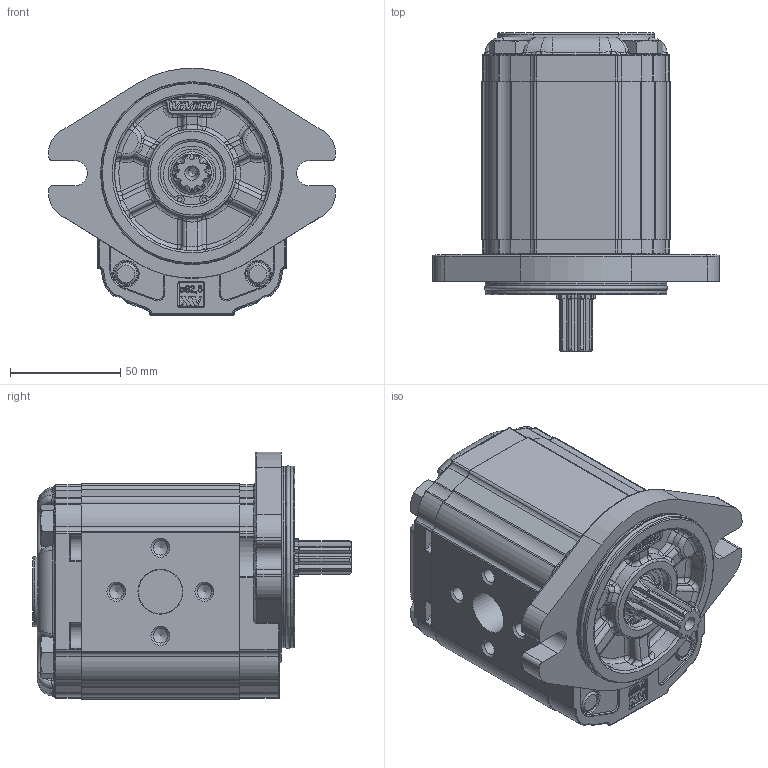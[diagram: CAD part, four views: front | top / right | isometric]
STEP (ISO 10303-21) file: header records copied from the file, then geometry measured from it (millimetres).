
FILE_DESCRIPTION(/* description */ ('Unknown'),/* implementation_level */ '2;1');
FILE_NAME(/* name */ 'X2R5331IPPE',/* time_stamp */ '2021-04-26T12:40:33+02:00',/* author */ ('Unknown'),/* organization */ ('Unknown'),/* preprocessor_version */ 'ST-DEVELOPER v16.7',/* originating_system */ 'Solid Edge',/* authorisation */ 'Unknown');
FILE_SCHEMA (('AUTOMOTIVE_DESIGN {1 0 10303 214 3 1 1}'));
Products named in the file (5): X2R5331IPPE; X2R31; 2I; X2PPH72; XR219-E
Assembly tree (4 placements, depth 2):
  X2R5331IPPE
    X2R31
    2I
    X2PPH72
    XR219-E
Bounding box: 130.38 x 144.7 x 112.3 mm (x, y, z)
Volume: 825503.2 mm3; surface area: 119792.3 mm2
Topology: 4 solids, 5 shells, 1569 faces, 3972 edges, 2480 vertices
Faces by surface type: plane 600, cylinder 443, bspline 210, torus 201, cone 89, sphere 26
Full cylindrical faces by diameter (mm): 2 x2, 6.647 x8, 11 x2, 11.445 x1, 11.5 x4, 16 x4, 17.42 x1, 17.48 x2, 18.724 x1, 20 x2, 20.595 x1, 21.741 x1, 25.834 x1, 28.56 x1, 28.57 x1, 28.8 x1, 30.4 x1, 79.6 x2, 82.5 x2
Entity records: 59389 total; most frequent: CARTESIAN_POINT 12975, ORIENTED_EDGE 7656, DIRECTION 7366, EDGE_CURVE 3828, AXIS2_PLACEMENT_3D 2727, VERTEX_POINT 2436, LINE 1912, VECTOR 1912
